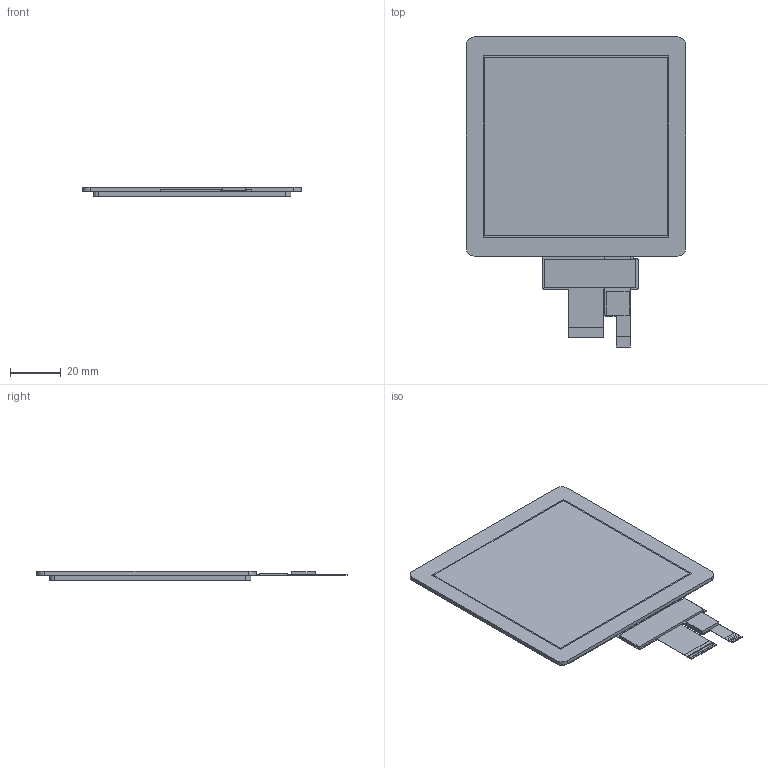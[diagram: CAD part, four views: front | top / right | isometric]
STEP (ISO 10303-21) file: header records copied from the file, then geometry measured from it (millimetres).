
FILE_DESCRIPTION (( 'STEP AP214' ), '1' );
FILE_NAME ('CFAF480480A0-040TC.STEP', '2020-09-29T21:03:28', ( '' ), ( '' ), 'SwSTEP 2.0', 'SolidWorks 2020', '' );
FILE_SCHEMA (( 'AUTOMOTIVE_DESIGN' ));
Length unit declared in the file: millimetre
Products named in the file (1): CFAF480480A0-040TC
Bounding box: 86 x 121.68 x 3.9 mm (x, y, z)
Volume: 26650.4 mm3; surface area: 33832.6 mm2
Topology: 64 solids, 64 shells, 726 faces, 1796 edges, 1200 vertices
Faces by surface type: plane 706, cylinder 20
Entity records: 29312 total; most frequent: CARTESIAN_POINT 3723, ORIENTED_EDGE 3592, DIRECTION 3290, EDGE_CURVE 1796, LINE 1756, VECTOR 1756, VERTEX_POINT 1200, AXIS2_PLACEMENT_3D 767
